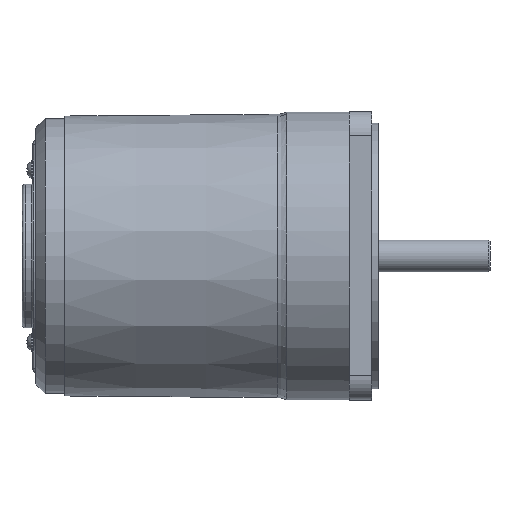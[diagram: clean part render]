
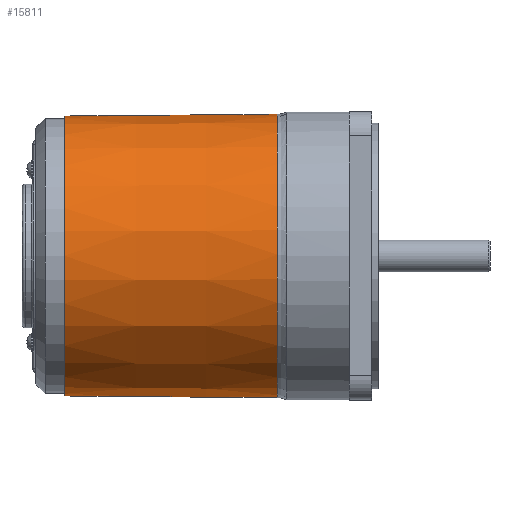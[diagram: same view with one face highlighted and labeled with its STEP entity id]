
A CAD part, top view. The second image highlights one B-rep face of the part: STEP entity #15811.
In plain terms, the highlighted conical face has half-angle 0.48 degrees and reference radius 44.029 mm.
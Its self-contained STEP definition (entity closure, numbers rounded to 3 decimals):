
#172=B_SPLINE_CURVE_WITH_KNOTS('',3,(#24563,#24564,#24565,#24566),
 .UNSPECIFIED.,.F.,.F.,(4,4),(3.256,3.306),
 .UNSPECIFIED.);
#173=B_SPLINE_CURVE_WITH_KNOTS('',3,(#24568,#24569,#24570,#24571),
 .UNSPECIFIED.,.F.,.F.,(4,4),(-3.256,0.),.UNSPECIFIED.);
#177=B_SPLINE_CURVE_WITH_KNOTS('',3,(#24650,#24651,#24652,#24653),
 .UNSPECIFIED.,.F.,.F.,(4,4),(-6.954,-3.698),
 .UNSPECIFIED.);
#178=B_SPLINE_CURVE_WITH_KNOTS('',3,(#24654,#24655,#24656,#24657),
 .UNSPECIFIED.,.F.,.F.,(4,4),(3.648,3.698),
 .UNSPECIFIED.);
#282=CONICAL_SURFACE('',#16841,44.029,0.48);
#691=FACE_BOUND('',#2656,.T.);
#934=CIRCLE('',#16825,44.031);
#942=CIRCLE('',#16842,44.308);
#943=CIRCLE('',#16843,43.75);
#1699=FACE_OUTER_BOUND('',#2655,.T.);
#2655=EDGE_LOOP('',(#10598,#10599,#10600,#10601,#10602,#10603));
#2656=EDGE_LOOP('',(#10604));
#6378=VERTEX_POINT('',#24213);
#6384=VERTEX_POINT('',#24327);
#6399=VERTEX_POINT('',#24562);
#6400=VERTEX_POINT('',#24567);
#6405=VERTEX_POINT('',#24647);
#6406=VERTEX_POINT('',#24649);
#6410=VERTEX_POINT('',#24710);
#7975=EDGE_CURVE('',#6378,#6384,#934,.T.);
#7998=EDGE_CURVE('',#6399,#6384,#172,.T.);
#7999=EDGE_CURVE('',#6399,#6400,#173,.T.);
#8009=EDGE_CURVE('',#6405,#6406,#177,.T.);
#8010=EDGE_CURVE('',#6378,#6406,#178,.T.);
#8017=EDGE_CURVE('',#6400,#6405,#942,.T.);
#8018=EDGE_CURVE('',#6410,#6410,#943,.T.);
#10598=ORIENTED_EDGE('',*,*,#8010,.T.);
#10599=ORIENTED_EDGE('',*,*,#8009,.F.);
#10600=ORIENTED_EDGE('',*,*,#8017,.F.);
#10601=ORIENTED_EDGE('',*,*,#7999,.F.);
#10602=ORIENTED_EDGE('',*,*,#7998,.T.);
#10603=ORIENTED_EDGE('',*,*,#7975,.F.);
#10604=ORIENTED_EDGE('',*,*,#8018,.T.);
#15811=ADVANCED_FACE('',(#1699,#691),#282,.T.);
#16825=AXIS2_PLACEMENT_3D('',#24328,#18829,#18830);
#16841=AXIS2_PLACEMENT_3D('',#24708,#18873,#18874);
#16842=AXIS2_PLACEMENT_3D('',#24709,#18875,#18876);
#16843=AXIS2_PLACEMENT_3D('',#24711,#18877,#18878);
#18829=DIRECTION('center_axis',(1.,0.,0.));
#18830=DIRECTION('ref_axis',(0.,0.,-1.));
#18873=DIRECTION('center_axis',(1.,0.,0.));
#18874=DIRECTION('ref_axis',(0.,1.,0.));
#18875=DIRECTION('center_axis',(1.,0.,0.));
#18876=DIRECTION('ref_axis',(0.,1.,0.));
#18877=DIRECTION('center_axis',(1.,0.,0.));
#18878=DIRECTION('ref_axis',(0.,1.,0.));
#24213=CARTESIAN_POINT('',(42.504,-29.21,-32.947));
#24327=CARTESIAN_POINT('',(42.504,29.21,-32.947));
#24328=CARTESIAN_POINT('Origin',(42.504,0.,
0.));
#24562=CARTESIAN_POINT('',(43.,29.21,-32.952));
#24563=CARTESIAN_POINT('Ctrl Pts',(43.,29.21,-32.952));
#24564=CARTESIAN_POINT('Ctrl Pts',(42.835,29.21,-32.95));
#24565=CARTESIAN_POINT('Ctrl Pts',(42.669,29.21,-32.949));
#24566=CARTESIAN_POINT('Ctrl Pts',(42.504,29.21,-32.947));
#24567=CARTESIAN_POINT('',(75.559,29.222,-33.306));
#24568=CARTESIAN_POINT('Ctrl Pts',(43.,29.21,-32.952));
#24569=CARTESIAN_POINT('Ctrl Pts',(53.853,29.214,-33.07));
#24570=CARTESIAN_POINT('Ctrl Pts',(64.706,29.218,-33.188));
#24571=CARTESIAN_POINT('Ctrl Pts',(75.559,29.222,-33.306));
#24647=CARTESIAN_POINT('',(75.559,-29.222,-33.306));
#24649=CARTESIAN_POINT('',(43.,-29.21,-32.952));
#24650=CARTESIAN_POINT('Ctrl Pts',(75.559,-29.222,-33.306));
#24651=CARTESIAN_POINT('Ctrl Pts',(64.706,-29.218,-33.188));
#24652=CARTESIAN_POINT('Ctrl Pts',(53.853,-29.214,-33.07));
#24653=CARTESIAN_POINT('Ctrl Pts',(43.,-29.21,-32.952));
#24654=CARTESIAN_POINT('Ctrl Pts',(42.504,-29.21,-32.947));
#24655=CARTESIAN_POINT('Ctrl Pts',(42.669,-29.21,-32.949));
#24656=CARTESIAN_POINT('Ctrl Pts',(42.835,-29.21,-32.95));
#24657=CARTESIAN_POINT('Ctrl Pts',(43.,-29.21,-32.952));
#24708=CARTESIAN_POINT('Origin',(42.279,0.,
0.));
#24709=CARTESIAN_POINT('Origin',(75.559,0.,
0.));
#24710=CARTESIAN_POINT('',(9.,43.75,0.));
#24711=CARTESIAN_POINT('Origin',(9.,0.,
0.));
